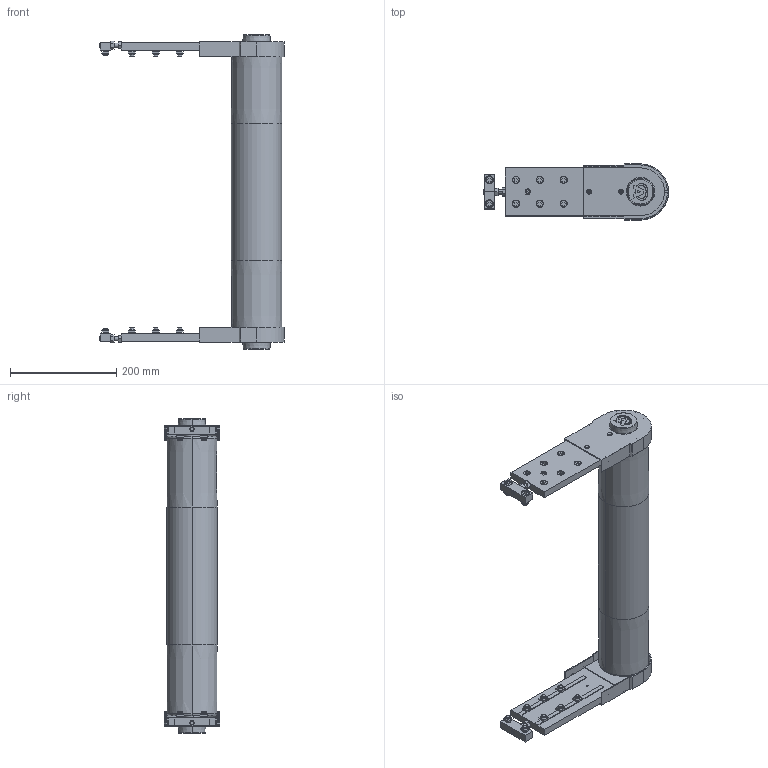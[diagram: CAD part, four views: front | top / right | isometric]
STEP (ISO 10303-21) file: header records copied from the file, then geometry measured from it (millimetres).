
FILE_DESCRIPTION (( 'STEP AP203' ), '1' );
FILE_NAME ('084.095.KI.500.STEP', '2016-01-11T16:22:37', ( '' ), ( '' ), 'SwSTEP 2.0', 'SolidWorks 2016', '' );
FILE_SCHEMA (( 'CONFIG_CONTROL_DESIGN' ));
Products named in the file (1): 084.095.KI.500
Bounding box: 348.5 x 105 x 593 mm (x, y, z)
Volume: 2002022.9 mm3; surface area: 882557.6 mm2
Topology: 53 solids, 55 shells, 1586 faces, 4098 edges, 2690 vertices
Faces by surface type: plane 967, cylinder 367, torus 116, cone 80, bspline 48, sphere 8
Entity records: 49683 total; most frequent: CARTESIAN_POINT 10183, DIRECTION 8164, ORIENTED_EDGE 8160, EDGE_CURVE 4080, AXIS2_PLACEMENT_3D 2773, VERTEX_POINT 2680, VECTOR 2618, LINE 2618
